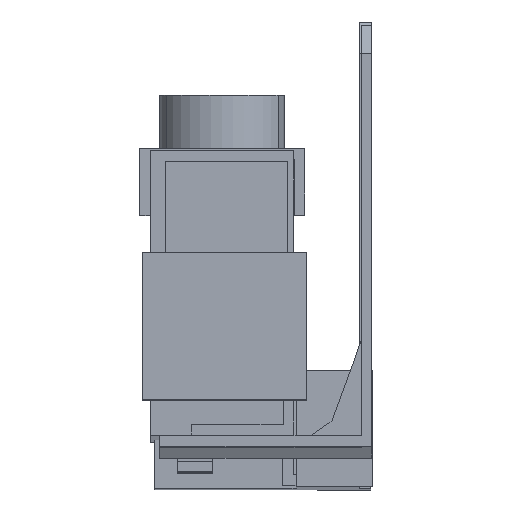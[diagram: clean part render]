
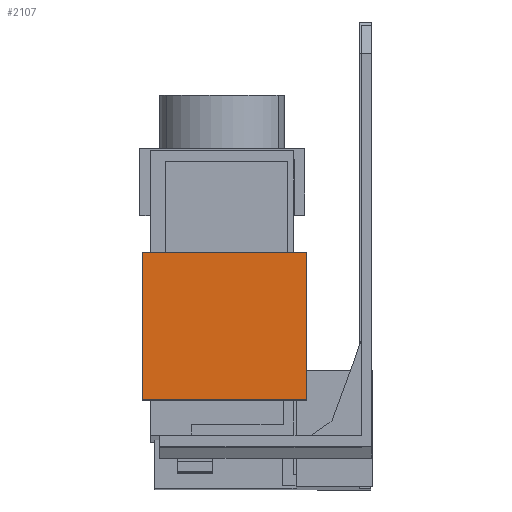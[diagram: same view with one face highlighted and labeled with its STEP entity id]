
A CAD part, front view. The second image highlights one B-rep face of the part: STEP entity #2107.
In plain terms, the highlighted planar face has unit normal (0, -1, 0.003).
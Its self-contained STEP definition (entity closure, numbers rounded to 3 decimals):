
#293 = FACE_OUTER_BOUND ( 'NONE', #4676, .T. ) ;
#753 = PLANE ( 'NONE',  #2692 ) ;
#756 = CARTESIAN_POINT ( 'NONE',  ( -9.3, -31.509, -40.315 ) ) ;
#762 = DIRECTION ( 'NONE',  ( 0., -1., 0.003 ) ) ;
#763 = DIRECTION ( 'NONE',  ( 1., 0., 0. ) ) ;
#1079 = CARTESIAN_POINT ( 'NONE',  ( -9.3, -31.452, -19.316 ) ) ;
#1116 = CARTESIAN_POINT ( 'NONE',  ( -32.7, -31.509, -40.315 ) ) ;
#1117 = CARTESIAN_POINT ( 'NONE',  ( -32.7, -31.452, -19.316 ) ) ;
#1139 = CARTESIAN_POINT ( 'NONE',  ( -9.3, -31.509, -40.315 ) ) ;
#1429 = EDGE_CURVE ( 'NONE', #2947, #2924, #5507, .T. ) ;
#1454 = EDGE_CURVE ( 'NONE', #2885, #2925, #5547, .T. ) ;
#1496 = EDGE_CURVE ( 'NONE', #2924, #2925, #5611, .T. ) ;
#1622 = EDGE_CURVE ( 'NONE', #2947, #2885, #5812, .T. ) ;
#2107 = ADVANCED_FACE ( 'NONE', ( #293 ), #753, .T. ) ;
#2692 = AXIS2_PLACEMENT_3D ( 'NONE', #756, #762, #763 ) ;
#2885 = VERTEX_POINT ( 'NONE', #1079 ) ;
#2924 = VERTEX_POINT ( 'NONE', #1116 ) ;
#2925 = VERTEX_POINT ( 'NONE', #1117 ) ;
#2947 = VERTEX_POINT ( 'NONE', #1139 ) ;
#3693 = CARTESIAN_POINT ( 'NONE',  ( -9.3, -31.509, -40.315 ) ) ;
#3696 = DIRECTION ( 'NONE',  ( -1., 0., 0. ) ) ;
#3751 = CARTESIAN_POINT ( 'NONE',  ( -9.3, -31.452, -19.316 ) ) ;
#3752 = DIRECTION ( 'NONE',  ( -1., 0., 0. ) ) ;
#3827 = CARTESIAN_POINT ( 'NONE',  ( -32.7, -31.509, -40.315 ) ) ;
#3828 = DIRECTION ( 'NONE',  ( 0., 0.003, 1. ) ) ;
#4076 = CARTESIAN_POINT ( 'NONE',  ( -9.3, -31.509, -40.315 ) ) ;
#4077 = DIRECTION ( 'NONE',  ( 0., 0.003, 1. ) ) ;
#4676 = EDGE_LOOP ( 'NONE', ( #4863, #4864, #4865, #4866 ) ) ;
#4863 = ORIENTED_EDGE ( 'NONE', *, *, #1454, .T. ) ;
#4864 = ORIENTED_EDGE ( 'NONE', *, *, #1496, .F. ) ;
#4865 = ORIENTED_EDGE ( 'NONE', *, *, #1429, .F. ) ;
#4866 = ORIENTED_EDGE ( 'NONE', *, *, #1622, .T. ) ;
#5507 = LINE ( 'NONE', #3693, #5510 ) ;
#5510 = VECTOR ( 'NONE', #3696, 1000. ) ;
#5547 = LINE ( 'NONE', #3751, #5548 ) ;
#5548 = VECTOR ( 'NONE', #3752, 1000. ) ;
#5611 = LINE ( 'NONE', #3827, #5612 ) ;
#5612 = VECTOR ( 'NONE', #3828, 1000. ) ;
#5812 = LINE ( 'NONE', #4076, #5813 ) ;
#5813 = VECTOR ( 'NONE', #4077, 1000. ) ;
